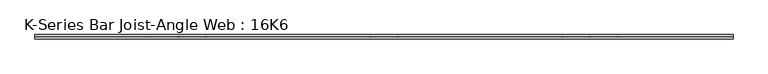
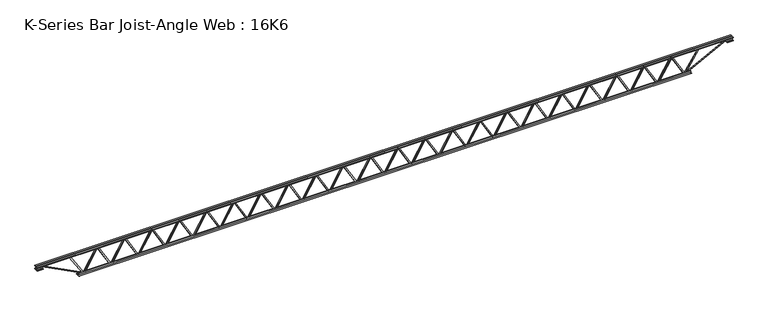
"""IFC4 building model written with IfcOpenShell, lengths in millimetres: beam geometry, K-Series Bar Joist-Angle Web : 16K6."""

from ifc_helpers import new_model, si_unit, frame, origin, place, context, project, spatial, polyline, outline, extrude, faceted_brep, source, transform, mapped, element, save


def k_series_bar_joist_angle_web_16k6_8cc64599(model_context):
    return source(origin(), model_context, "Body", "SolidModel", [
        extrude(outline(polyline([(-4.75, 4.7625), (-4.75, 0.0), (-17.45, 0.0), (-17.45, 4.7625), (-4.75, 4.7625)])), frame((4671.405296, 0.0, -164.9), z_axis=(-0.5046196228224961, 0.0, 0.8633417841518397), x_axis=(0.0, -1.0, 0.0)), (0.0, 0.0, 1.0), 382.0039827),
        extrude(outline(polyline([(-199.825, 4703.6341991), (-180.775, 4703.6341991), (-180.775, 4702.7495874), (199.825, 4480.2904965), (199.825, 4462.1251082), (180.775, 4462.1251082), (180.775, 4469.3597199), (-199.825, 4691.8188108), (-199.825, 4703.6341991)])), frame((0.0, 0.0, 0.0), z_axis=(0.0, 1.0, 0.0), x_axis=(0.0, 0.0, 1.0)), (0.0, 0.0, 1.0), 4.75),
        faceted_brep([(4233.3160173, 0.0, -180.775), (4233.3160173, 0.0, -199.825), (4233.3160173, -4.75, -199.825), (4233.3160173, -4.75, -180.775), (4234.200629, 0.0, -180.775), (4456.6597199, 0.0, 199.825), (4474.8251082, 0.0, 199.825), (4474.8251082, 0.0, 180.775), (4467.5904965, 0.0, 180.775), (4245.1314056, 0.0, -199.825), (4245.1314056, -4.75, -199.825), (4265.5449205, -4.75, -164.9), (4261.4332552, -4.75, -162.496749), (4454.1999609, -4.75, 167.303251), (4458.3116261, -4.75, 164.9), (4467.5904965, -4.75, 180.775), (4474.8251082, -4.75, 180.775), (4474.8251082, -4.75, 199.825), (4456.6597199, -4.75, 199.825), (4234.200629, -4.75, -180.775), (4458.3116261, -17.4625, 164.9), (4265.5449205, -17.4625, -164.9), (4261.4332552, -17.4625, -162.496749), (4454.1999609, -17.4625, 167.303251)], [[[0, 1, 2, 3]], [[1, 0, 4, 5, 6, 7, 8, 9]], [[2, 1, 9, 10]], [[3, 2, 10, 11, 12, 13, 14, 15, 16, 17, 18, 19]], [[0, 3, 19, 4]], [[9, 8, 15, 14, 20, 21, 11, 10]], [[5, 4, 19, 18]], [[7, 6, 17, 16]], [[8, 7, 16, 15]], [[6, 5, 18, 17]], [[21, 22, 12, 11]], [[20, 14, 13, 23]], [[22, 21, 20, 23]], [[12, 22, 23, 13]]]),
        extrude(outline(polyline([(-4.75, 4.7625001), (-4.75, 0.0), (-17.45, 0.0), (-17.45, 4.7625001), (-4.75, 4.7625001)])), frame((4201.0394951, 0.0, -164.9), z_axis=(-0.5046196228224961, 0.0, 0.8633417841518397), x_axis=(0.0, -1.0, 0.0)), (0.0, 0.0, 1.0), 382.0039827),
        extrude(outline(polyline([(-199.825, 4233.2683983), (-180.775, 4233.2683983), (-180.775, 4232.3837866), (199.825, 4009.9246957), (199.825, 3991.7593074), (180.775, 3991.7593074), (180.775, 3998.9939191), (-199.825, 4221.45301), (-199.825, 4233.2683983)])), frame((0.0, 0.0, 0.0), z_axis=(0.0, 1.0, 0.0), x_axis=(0.0, 0.0, 1.0)), (0.0, 0.0, 1.0), 4.75),
        faceted_brep([(3762.9502165, 0.0, -180.775), (3762.9502165, 0.0, -199.825), (3762.9502165, -4.75, -199.825), (3762.9502165, -4.75, -180.775), (3763.8348281, 0.0, -180.775), (3986.2939191, 0.0, 199.825), (4004.4593074, 0.0, 199.825), (4004.4593074, 0.0, 180.775), (3997.2246957, 0.0, 180.775), (3774.7656048, 0.0, -199.825), (3774.7656048, -4.75, -199.825), (3795.1791196, -4.75, -164.9), (3791.0674544, -4.75, -162.496749), (3983.83416, -4.75, 167.303251), (3987.9458253, -4.75, 164.9), (3997.2246957, -4.75, 180.775), (4004.4593074, -4.75, 180.775), (4004.4593074, -4.75, 199.825), (3986.2939191, -4.75, 199.825), (3763.8348281, -4.75, -180.775), (3987.9458253, -17.4625, 164.9), (3795.1791196, -17.4625, -164.9), (3791.0674544, -17.4625, -162.496749), (3983.83416, -17.4625, 167.303251)], [[[0, 1, 2, 3]], [[1, 0, 4, 5, 6, 7, 8, 9]], [[2, 1, 9, 10]], [[3, 2, 10, 11, 12, 13, 14, 15, 16, 17, 18, 19]], [[0, 3, 19, 4]], [[9, 8, 15, 14, 20, 21, 11, 10]], [[5, 4, 19, 18]], [[7, 6, 17, 16]], [[8, 7, 16, 15]], [[6, 5, 18, 17]], [[21, 22, 12, 11]], [[20, 14, 13, 23]], [[22, 21, 20, 23]], [[12, 22, 23, 13]]]),
        extrude(outline(polyline([(-4.75, 4.7625001), (-4.75, 0.0), (-17.45, 0.0), (-17.45, 4.7625001), (-4.75, 4.7625001)])), frame((3730.6736942, 0.0, -164.9), z_axis=(-0.5046196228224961, 0.0, 0.8633417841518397), x_axis=(0.0, -1.0, 0.0)), (0.0, 0.0, 1.0), 382.0039827),
        extrude(outline(polyline([(-199.825, 3762.9025974), (-180.775, 3762.9025974), (-180.775, 3762.0179857), (199.825, 3539.5588948), (199.825, 3521.3935065), (180.775, 3521.3935065), (180.775, 3528.6281182), (-199.825, 3751.0872091), (-199.825, 3762.9025974)])), frame((0.0, 0.0, 0.0), z_axis=(0.0, 1.0, 0.0), x_axis=(0.0, 0.0, 1.0)), (0.0, 0.0, 1.0), 4.75),
        faceted_brep([(3292.5844156, 0.0, -180.775), (3292.5844156, 0.0, -199.825), (3292.5844156, -4.75, -199.825), (3292.5844156, -4.75, -180.775), (3293.4690273, 0.0, -180.775), (3515.9281182, 0.0, 199.825), (3534.0935065, 0.0, 199.825), (3534.0935065, 0.0, 180.775), (3526.8588948, 0.0, 180.775), (3304.3998039, 0.0, -199.825), (3304.3998039, -4.75, -199.825), (3324.8133187, -4.75, -164.9), (3320.7016535, -4.75, -162.496749), (3513.4683592, -4.75, 167.303251), (3517.5800244, -4.75, 164.9), (3526.8588948, -4.75, 180.775), (3534.0935065, -4.75, 180.775), (3534.0935065, -4.75, 199.825), (3515.9281182, -4.75, 199.825), (3293.4690273, -4.75, -180.775), (3517.5800244, -17.4625, 164.9), (3324.8133187, -17.4625, -164.9), (3320.7016535, -17.4625, -162.496749), (3513.4683592, -17.4625, 167.303251)], [[[0, 1, 2, 3]], [[1, 0, 4, 5, 6, 7, 8, 9]], [[2, 1, 9, 10]], [[3, 2, 10, 11, 12, 13, 14, 15, 16, 17, 18, 19]], [[0, 3, 19, 4]], [[9, 8, 15, 14, 20, 21, 11, 10]], [[5, 4, 19, 18]], [[7, 6, 17, 16]], [[8, 7, 16, 15]], [[6, 5, 18, 17]], [[21, 22, 12, 11]], [[20, 14, 13, 23]], [[22, 21, 20, 23]], [[12, 22, 23, 13]]]),
        extrude(outline(polyline([(-4.75, 4.7625), (-4.75, 0.0), (-17.45, 0.0), (-17.45, 4.7625), (-4.75, 4.7625)])), frame((3260.3078934, 0.0, -164.9), z_axis=(-0.5046196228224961, 0.0, 0.8633417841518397), x_axis=(0.0, -1.0, 0.0)), (0.0, 0.0, 1.0), 382.0039827),
        extrude(outline(polyline([(-199.825, 3292.5367965), (-180.775, 3292.5367965), (-180.775, 3291.6521848), (199.825, 3069.1930939), (199.825, 3051.0277056), (180.775, 3051.0277056), (180.775, 3058.2623173), (-199.825, 3280.7214082), (-199.825, 3292.5367965)])), frame((0.0, 0.0, 0.0), z_axis=(0.0, 1.0, 0.0), x_axis=(0.0, 0.0, 1.0)), (0.0, 0.0, 1.0), 4.75),
        faceted_brep([(2822.2186147, 0.0, -180.775), (2822.2186147, 0.0, -199.825), (2822.2186147, -4.75, -199.825), (2822.2186147, -4.75, -180.775), (2823.1032264, 0.0, -180.775), (3045.5623173, 0.0, 199.825), (3063.7277056, 0.0, 199.825), (3063.7277056, 0.0, 180.775), (3056.4930939, 0.0, 180.775), (2834.034003, 0.0, -199.825), (2834.034003, -4.75, -199.825), (2854.4475179, -4.75, -164.9), (2850.3358526, -4.75, -162.496749), (3043.1025583, -4.75, 167.303251), (3047.2142236, -4.75, 164.9), (3056.4930939, -4.75, 180.775), (3063.7277056, -4.75, 180.775), (3063.7277056, -4.75, 199.825), (3045.5623173, -4.75, 199.825), (2823.1032264, -4.75, -180.775), (3047.2142236, -17.4625, 164.9), (2854.4475179, -17.4625, -164.9), (2850.3358526, -17.4625, -162.496749), (3043.1025583, -17.4625, 167.303251)], [[[0, 1, 2, 3]], [[1, 0, 4, 5, 6, 7, 8, 9]], [[2, 1, 9, 10]], [[3, 2, 10, 11, 12, 13, 14, 15, 16, 17, 18, 19]], [[0, 3, 19, 4]], [[9, 8, 15, 14, 20, 21, 11, 10]], [[5, 4, 19, 18]], [[7, 6, 17, 16]], [[8, 7, 16, 15]], [[6, 5, 18, 17]], [[21, 22, 12, 11]], [[20, 14, 13, 23]], [[22, 21, 20, 23]], [[12, 22, 23, 13]]]),
        extrude(outline(polyline([(-4.75, 4.7625001), (-4.75, 0.0), (-17.45, 0.0), (-17.45, 4.7625001), (-4.75, 4.7625001)])), frame((2789.9420925, 0.0, -164.9), z_axis=(-0.5046196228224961, 0.0, 0.8633417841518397), x_axis=(0.0, -1.0, 0.0)), (0.0, 0.0, 1.0), 382.0039827),
        extrude(outline(polyline([(-199.825, 2822.1709957), (-180.775, 2822.1709957), (-180.775, 2821.286384), (199.825, 2598.8272931), (199.825, 2580.6619048), (180.775, 2580.6619048), (180.775, 2587.8965165), (-199.825, 2810.3556074), (-199.825, 2822.1709957)])), frame((0.0, 0.0, 0.0), z_axis=(0.0, 1.0, 0.0), x_axis=(0.0, 0.0, 1.0)), (0.0, 0.0, 1.0), 4.75),
        faceted_brep([(2351.8528139, 0.0, -180.775), (2351.8528139, 0.0, -199.825), (2351.8528139, -4.75, -199.825), (2351.8528139, -4.75, -180.775), (2352.7374255, 0.0, -180.775), (2575.1965165, 0.0, 199.825), (2593.3619048, 0.0, 199.825), (2593.3619048, 0.0, 180.775), (2586.1272931, 0.0, 180.775), (2363.6682022, 0.0, -199.825), (2363.6682022, -4.75, -199.825), (2384.081717, -4.75, -164.9), (2379.9700518, -4.75, -162.496749), (2572.7367574, -4.75, 167.303251), (2576.8484227, -4.75, 164.9), (2586.1272931, -4.75, 180.775), (2593.3619048, -4.75, 180.775), (2593.3619048, -4.75, 199.825), (2575.1965165, -4.75, 199.825), (2352.7374255, -4.75, -180.775), (2576.8484227, -17.4625, 164.9), (2384.081717, -17.4625, -164.9), (2379.9700518, -17.4625, -162.496749), (2572.7367574, -17.4625, 167.303251)], [[[0, 1, 2, 3]], [[1, 0, 4, 5, 6, 7, 8, 9]], [[2, 1, 9, 10]], [[3, 2, 10, 11, 12, 13, 14, 15, 16, 17, 18, 19]], [[0, 3, 19, 4]], [[9, 8, 15, 14, 20, 21, 11, 10]], [[5, 4, 19, 18]], [[7, 6, 17, 16]], [[8, 7, 16, 15]], [[6, 5, 18, 17]], [[21, 22, 12, 11]], [[20, 14, 13, 23]], [[22, 21, 20, 23]], [[12, 22, 23, 13]]]),
        extrude(outline(polyline([(-4.75, 4.7625), (-4.75, 0.0), (-17.45, 0.0), (-17.45, 4.7625), (-4.75, 4.7625)])), frame((2319.5762917, 0.0, -164.9), z_axis=(-0.5046196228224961, 0.0, 0.8633417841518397), x_axis=(0.0, -1.0, 0.0)), (0.0, 0.0, 1.0), 382.0039827),
        extrude(outline(polyline([(-199.825, 2351.8051948), (-180.775, 2351.8051948), (-180.775, 2350.9205831), (199.825, 2128.4614922), (199.825, 2110.2961039), (180.775, 2110.2961039), (180.775, 2117.5307156), (-199.825, 2339.9898065), (-199.825, 2351.8051948)])), frame((0.0, 0.0, 0.0), z_axis=(0.0, 1.0, 0.0), x_axis=(0.0, 0.0, 1.0)), (0.0, 0.0, 1.0), 4.75),
        faceted_brep([(1881.487013, 0.0, -180.775), (1881.487013, 0.0, -199.825), (1881.487013, -4.75, -199.825), (1881.487013, -4.75, -180.775), (1882.3716247, 0.0, -180.775), (2104.8307156, 0.0, 199.825), (2122.9961039, 0.0, 199.825), (2122.9961039, 0.0, 180.775), (2115.7614922, 0.0, 180.775), (1893.3024013, 0.0, -199.825), (1893.3024013, -4.75, -199.825), (1913.7159161, -4.75, -164.9), (1909.6042509, -4.75, -162.496749), (2102.3709566, -4.75, 167.303251), (2106.4826218, -4.75, 164.9), (2115.7614922, -4.75, 180.775), (2122.9961039, -4.75, 180.775), (2122.9961039, -4.75, 199.825), (2104.8307156, -4.75, 199.825), (1882.3716247, -4.75, -180.775), (2106.4826218, -17.4625, 164.9), (1913.7159161, -17.4625, -164.9), (1909.6042509, -17.4625, -162.496749), (2102.3709566, -17.4625, 167.303251)], [[[0, 1, 2, 3]], [[1, 0, 4, 5, 6, 7, 8, 9]], [[2, 1, 9, 10]], [[3, 2, 10, 11, 12, 13, 14, 15, 16, 17, 18, 19]], [[0, 3, 19, 4]], [[9, 8, 15, 14, 20, 21, 11, 10]], [[5, 4, 19, 18]], [[7, 6, 17, 16]], [[8, 7, 16, 15]], [[6, 5, 18, 17]], [[21, 22, 12, 11]], [[20, 14, 13, 23]], [[22, 21, 20, 23]], [[12, 22, 23, 13]]]),
        extrude(outline(polyline([(-4.75, 4.7625), (-4.75, 0.0), (-17.45, 0.0), (-17.45, 4.7625), (-4.75, 4.7625)])), frame((1849.2104908, 0.0, -164.9), z_axis=(-0.5046196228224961, 0.0, 0.8633417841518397), x_axis=(0.0, -1.0, 0.0)), (0.0, 0.0, 1.0), 382.0039827),
        extrude(outline(polyline([(-199.825, 1881.4393939), (-180.775, 1881.4393939), (-180.775, 1880.5547822), (199.825, 1658.0956913), (199.825, 1639.930303), (180.775, 1639.930303), (180.775, 1647.1649147), (-199.825, 1869.6240056), (-199.825, 1881.4393939)])), frame((0.0, 0.0, 0.0), z_axis=(0.0, 1.0, 0.0), x_axis=(0.0, 0.0, 1.0)), (0.0, 0.0, 1.0), 4.75),
        faceted_brep([(1411.1212121, 0.0, -180.775), (1411.1212121, 0.0, -199.825), (1411.1212121, -4.75, -199.825), (1411.1212121, -4.75, -180.775), (1412.0058238, 0.0, -180.775), (1634.4649147, 0.0, 199.825), (1652.630303, 0.0, 199.825), (1652.630303, 0.0, 180.775), (1645.3956913, 0.0, 180.775), (1422.9366004, 0.0, -199.825), (1422.9366004, -4.75, -199.825), (1443.3501153, -4.75, -164.9), (1439.23845, -4.75, -162.496749), (1632.0051557, -4.75, 167.303251), (1636.116821, -4.75, 164.9), (1645.3956913, -4.75, 180.775), (1652.630303, -4.75, 180.775), (1652.630303, -4.75, 199.825), (1634.4649147, -4.75, 199.825), (1412.0058238, -4.75, -180.775), (1636.116821, -17.4625, 164.9), (1443.3501153, -17.4625, -164.9), (1439.23845, -17.4625, -162.496749), (1632.0051557, -17.4625, 167.303251)], [[[0, 1, 2, 3]], [[1, 0, 4, 5, 6, 7, 8, 9]], [[2, 1, 9, 10]], [[3, 2, 10, 11, 12, 13, 14, 15, 16, 17, 18, 19]], [[0, 3, 19, 4]], [[9, 8, 15, 14, 20, 21, 11, 10]], [[5, 4, 19, 18]], [[7, 6, 17, 16]], [[8, 7, 16, 15]], [[6, 5, 18, 17]], [[21, 22, 12, 11]], [[20, 14, 13, 23]], [[22, 21, 20, 23]], [[12, 22, 23, 13]]]),
        extrude(outline(polyline([(-4.75, 4.7625001), (-4.75, 0.0), (-17.45, 0.0), (-17.45, 4.7625001), (-4.75, 4.7625001)])), frame((1378.8446899, 0.0, -164.9), z_axis=(-0.5046196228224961, 0.0, 0.8633417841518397), x_axis=(0.0, -1.0, 0.0)), (0.0, 0.0, 1.0), 382.0039827),
        extrude(outline(polyline([(-199.825, 1411.0735931), (-180.775, 1411.0735931), (-180.775, 1410.1889814), (199.825, 1187.7298905), (199.825, 1169.5645022), (180.775, 1169.5645022), (180.775, 1176.7991139), (-199.825, 1399.2582048), (-199.825, 1411.0735931)])), frame((0.0, 0.0, 0.0), z_axis=(0.0, 1.0, 0.0), x_axis=(0.0, 0.0, 1.0)), (0.0, 0.0, 1.0), 4.75),
        faceted_brep([(940.7554113, 0.0, -180.775), (940.7554113, 0.0, -199.825), (940.7554113, -4.75, -199.825), (940.7554113, -4.75, -180.775), (941.6400229, 0.0, -180.775), (1164.0991139, 0.0, 199.825), (1182.2645022, 0.0, 199.825), (1182.2645022, 0.0, 180.775), (1175.0298905, 0.0, 180.775), (952.5707996, 0.0, -199.825), (952.5707996, -4.75, -199.825), (972.9843144, -4.75, -164.9), (968.8726492, -4.75, -162.496749), (1161.6393548, -4.75, 167.303251), (1165.7510201, -4.75, 164.9), (1175.0298905, -4.75, 180.775), (1182.2645022, -4.75, 180.775), (1182.2645022, -4.75, 199.825), (1164.0991139, -4.75, 199.825), (941.6400229, -4.75, -180.775), (1165.7510201, -17.4625, 164.9), (972.9843144, -17.4625, -164.9), (968.8726492, -17.4625, -162.496749), (1161.6393548, -17.4625, 167.303251)], [[[0, 1, 2, 3]], [[1, 0, 4, 5, 6, 7, 8, 9]], [[2, 1, 9, 10]], [[3, 2, 10, 11, 12, 13, 14, 15, 16, 17, 18, 19]], [[0, 3, 19, 4]], [[9, 8, 15, 14, 20, 21, 11, 10]], [[5, 4, 19, 18]], [[7, 6, 17, 16]], [[8, 7, 16, 15]], [[6, 5, 18, 17]], [[21, 22, 12, 11]], [[20, 14, 13, 23]], [[22, 21, 20, 23]], [[12, 22, 23, 13]]]),
        extrude(outline(polyline([(-4.75, 4.7625), (-4.75, 0.0), (-17.45, 0.0), (-17.45, 4.7625), (-4.75, 4.7625)])), frame((908.4788891, 0.0, -164.9), z_axis=(-0.5046196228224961, 0.0, 0.8633417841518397), x_axis=(0.0, -1.0, 0.0)), (0.0, 0.0, 1.0), 382.0039827),
        extrude(outline(polyline([(-199.825, 940.7077922), (-180.775, 940.7077922), (-180.775, 939.8231805), (199.825, 717.3640896), (199.825, 699.1987013), (180.775, 699.1987013), (180.775, 706.433313), (-199.825, 928.8924039), (-199.825, 940.7077922)])), frame((0.0, 0.0, 0.0), z_axis=(0.0, 1.0, 0.0), x_axis=(0.0, 0.0, 1.0)), (0.0, 0.0, 1.0), 4.75),
        faceted_brep([(470.3896104, 0.0, -180.775), (470.3896104, 0.0, -199.825), (470.3896104, -4.75, -199.825), (470.3896104, -4.75, -180.775), (471.2742221, 0.0, -180.775), (693.733313, 0.0, 199.825), (711.8987013, 0.0, 199.825), (711.8987013, 0.0, 180.775), (704.6640896, 0.0, 180.775), (482.2049987, 0.0, -199.825), (482.2049987, -4.75, -199.825), (502.6185135, -4.75, -164.9), (498.5068483, -4.75, -162.496749), (691.273554, -4.75, 167.303251), (695.3852192, -4.75, 164.9), (704.6640896, -4.75, 180.775), (711.8987013, -4.75, 180.775), (711.8987013, -4.75, 199.825), (693.733313, -4.75, 199.825), (471.2742221, -4.75, -180.775), (695.3852192, -17.4625, 164.9), (502.6185135, -17.4625, -164.9), (498.5068483, -17.4625, -162.496749), (691.273554, -17.4625, 167.303251)], [[[0, 1, 2, 3]], [[1, 0, 4, 5, 6, 7, 8, 9]], [[2, 1, 9, 10]], [[3, 2, 10, 11, 12, 13, 14, 15, 16, 17, 18, 19]], [[0, 3, 19, 4]], [[9, 8, 15, 14, 20, 21, 11, 10]], [[5, 4, 19, 18]], [[7, 6, 17, 16]], [[8, 7, 16, 15]], [[6, 5, 18, 17]], [[21, 22, 12, 11]], [[20, 14, 13, 23]], [[22, 21, 20, 23]], [[12, 22, 23, 13]]]),
        extrude(outline(polyline([(-4.75, 4.7625), (-4.75, 0.0), (-17.45, 0.0), (-17.45, 4.7625), (-4.75, 4.7625)])), frame((438.1130882, 0.0, -164.9), z_axis=(-0.5046196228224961, 0.0, 0.8633417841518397), x_axis=(0.0, -1.0, 0.0)), (0.0, 0.0, 1.0), 382.0039827),
        extrude(outline(polyline([(-199.825, 470.3419913), (-180.775, 470.3419913), (-180.775, 469.4573796), (199.825, 246.9982887), (199.825, 228.8329004), (180.775, 228.8329004), (180.775, 236.0675121), (-199.825, 458.526603), (-199.825, 470.3419913)])), frame((0.0, 0.0, 0.0), z_axis=(0.0, 1.0, 0.0), x_axis=(0.0, 0.0, 1.0)), (0.0, 0.0, 1.0), 4.75),
        faceted_brep([(0.0238095, 0.0, -180.775), (0.0238095, 0.0, -199.825), (0.0238095, -4.75, -199.825), (0.0238095, -4.75, -180.775), (0.9084212, 0.0, -180.775), (223.3675121, 0.0, 199.825), (241.5329004, 0.0, 199.825), (241.5329004, 0.0, 180.775), (234.2982887, 0.0, 180.775), (11.8391978, 0.0, -199.825), (11.8391978, -4.75, -199.825), (32.2527127, -4.75, -164.9), (28.1410474, -4.75, -162.496749), (220.9077531, -4.75, 167.303251), (225.0194184, -4.75, 164.9), (234.2982887, -4.75, 180.775), (241.5329004, -4.75, 180.775), (241.5329004, -4.75, 199.825), (223.3675121, -4.75, 199.825), (0.9084212, -4.75, -180.775), (225.0194184, -17.4625, 164.9), (32.2527127, -17.4625, -164.9), (28.1410474, -17.4625, -162.496749), (220.9077531, -17.4625, 167.303251)], [[[0, 1, 2, 3]], [[1, 0, 4, 5, 6, 7, 8, 9]], [[2, 1, 9, 10]], [[3, 2, 10, 11, 12, 13, 14, 15, 16, 17, 18, 19]], [[0, 3, 19, 4]], [[9, 8, 15, 14, 20, 21, 11, 10]], [[5, 4, 19, 18]], [[7, 6, 17, 16]], [[8, 7, 16, 15]], [[6, 5, 18, 17]], [[21, 22, 12, 11]], [[20, 14, 13, 23]], [[22, 21, 20, 23]], [[12, 22, 23, 13]]]),
        extrude(outline(polyline([(-4.75, 4.7625001), (-4.75, 0.0), (-17.45, 0.0), (-17.45, 4.7625001), (-4.75, 4.7625001)])), frame((-32.2527127, 0.0, -164.9), z_axis=(-0.5046196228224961, 0.0, 0.8633417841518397), x_axis=(0.0, -1.0, 0.0)), (0.0, 0.0, 1.0), 382.0039827),
        extrude(outline(polyline([(-199.825, -0.0238095), (-180.775, -0.0238095), (-180.775, -0.9084212), (199.825, -223.3675121), (199.825, -241.5329004), (180.775, -241.5329004), (180.775, -234.2982887), (-199.825, -11.8391978), (-199.825, -0.0238095)])), frame((0.0, 0.0, 0.0), z_axis=(0.0, 1.0, 0.0), x_axis=(0.0, 0.0, 1.0)), (0.0, 0.0, 1.0), 4.75),
        faceted_brep([(-470.3419913, 0.0, -180.775), (-470.3419913, 0.0, -199.825), (-470.3419913, -4.75, -199.825), (-470.3419913, -4.75, -180.775), (-469.4573796, 0.0, -180.775), (-246.9982887, 0.0, 199.825), (-228.8329004, 0.0, 199.825), (-228.8329004, 0.0, 180.775), (-236.0675121, 0.0, 180.775), (-458.526603, 0.0, -199.825), (-458.526603, -4.75, -199.825), (-438.1130882, -4.75, -164.9), (-442.2247534, -4.75, -162.496749), (-249.4580478, -4.75, 167.303251), (-245.3463825, -4.75, 164.9), (-236.0675121, -4.75, 180.775), (-228.8329004, -4.75, 180.775), (-228.8329004, -4.75, 199.825), (-246.9982887, -4.75, 199.825), (-469.4573796, -4.75, -180.775), (-245.3463825, -17.4625, 164.9), (-438.1130882, -17.4625, -164.9), (-442.2247534, -17.4625, -162.496749), (-249.4580478, -17.4625, 167.303251)], [[[0, 1, 2, 3]], [[1, 0, 4, 5, 6, 7, 8, 9]], [[2, 1, 9, 10]], [[3, 2, 10, 11, 12, 13, 14, 15, 16, 17, 18, 19]], [[0, 3, 19, 4]], [[9, 8, 15, 14, 20, 21, 11, 10]], [[5, 4, 19, 18]], [[7, 6, 17, 16]], [[8, 7, 16, 15]], [[6, 5, 18, 17]], [[21, 22, 12, 11]], [[20, 14, 13, 23]], [[22, 21, 20, 23]], [[12, 22, 23, 13]]]),
        extrude(outline(polyline([(-4.75, 4.7625), (-4.75, 0.0), (-17.45, 0.0), (-17.45, 4.7625), (-4.75, 4.7625)])), frame((-502.6185135, 0.0, -164.9), z_axis=(-0.5046196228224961, 0.0, 0.8633417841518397), x_axis=(0.0, -1.0, 0.0)), (0.0, 0.0, 1.0), 382.0039827),
        extrude(outline(polyline([(-199.825, -470.3896104), (-180.775, -470.3896104), (-180.775, -471.2742221), (199.825, -693.733313), (199.825, -711.8987013), (180.775, -711.8987013), (180.775, -704.6640896), (-199.825, -482.2049987), (-199.825, -470.3896104)])), frame((0.0, 0.0, 0.0), z_axis=(0.0, 1.0, 0.0), x_axis=(0.0, 0.0, 1.0)), (0.0, 0.0, 1.0), 4.75),
        faceted_brep([(-940.7077922, 0.0, -180.775), (-940.7077922, 0.0, -199.825), (-940.7077922, -4.75, -199.825), (-940.7077922, -4.75, -180.775), (-939.8231805, 0.0, -180.775), (-717.3640896, 0.0, 199.825), (-699.1987013, 0.0, 199.825), (-699.1987013, 0.0, 180.775), (-706.433313, 0.0, 180.775), (-928.8924039, 0.0, -199.825), (-928.8924039, -4.75, -199.825), (-908.4788891, -4.75, -164.9), (-912.5905543, -4.75, -162.496749), (-719.8238486, -4.75, 167.303251), (-715.7121834, -4.75, 164.9), (-706.433313, -4.75, 180.775), (-699.1987013, -4.75, 180.775), (-699.1987013, -4.75, 199.825), (-717.3640896, -4.75, 199.825), (-939.8231805, -4.75, -180.775), (-715.7121834, -17.4625, 164.9), (-908.4788891, -17.4625, -164.9), (-912.5905543, -17.4625, -162.496749), (-719.8238486, -17.4625, 167.303251)], [[[0, 1, 2, 3]], [[1, 0, 4, 5, 6, 7, 8, 9]], [[2, 1, 9, 10]], [[3, 2, 10, 11, 12, 13, 14, 15, 16, 17, 18, 19]], [[0, 3, 19, 4]], [[9, 8, 15, 14, 20, 21, 11, 10]], [[5, 4, 19, 18]], [[7, 6, 17, 16]], [[8, 7, 16, 15]], [[6, 5, 18, 17]], [[21, 22, 12, 11]], [[20, 14, 13, 23]], [[22, 21, 20, 23]], [[12, 22, 23, 13]]]),
        extrude(outline(polyline([(-4.75, 4.7625), (-4.75, 0.0), (-17.45, 0.0), (-17.45, 4.7625), (-4.75, 4.7625)])), frame((-972.9843144, 0.0, -164.9), z_axis=(-0.5046196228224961, 0.0, 0.8633417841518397), x_axis=(0.0, -1.0, 0.0)), (0.0, 0.0, 1.0), 382.0039827),
        extrude(outline(polyline([(-199.825, -940.7554113), (-180.775, -940.7554113), (-180.775, -941.6400229), (199.825, -1164.0991139), (199.825, -1182.2645022), (180.775, -1182.2645022), (180.775, -1175.0298905), (-199.825, -952.5707996), (-199.825, -940.7554113)])), frame((0.0, 0.0, 0.0), z_axis=(0.0, 1.0, 0.0), x_axis=(0.0, 0.0, 1.0)), (0.0, 0.0, 1.0), 4.75),
        faceted_brep([(-1411.0735931, 0.0, -180.775), (-1411.0735931, 0.0, -199.825), (-1411.0735931, -4.75, -199.825), (-1411.0735931, -4.75, -180.775), (-1410.1889814, 0.0, -180.775), (-1187.7298905, 0.0, 199.825), (-1169.5645022, 0.0, 199.825), (-1169.5645022, 0.0, 180.775), (-1176.7991139, 0.0, 180.775), (-1399.2582048, 0.0, -199.825), (-1399.2582048, -4.75, -199.825), (-1378.8446899, -4.75, -164.9), (-1382.9563552, -4.75, -162.496749), (-1190.1896495, -4.75, 167.303251), (-1186.0779842, -4.75, 164.9), (-1176.7991139, -4.75, 180.775), (-1169.5645022, -4.75, 180.775), (-1169.5645022, -4.75, 199.825), (-1187.7298905, -4.75, 199.825), (-1410.1889814, -4.75, -180.775), (-1186.0779842, -17.4625, 164.9), (-1378.8446899, -17.4625, -164.9), (-1382.9563552, -17.4625, -162.496749), (-1190.1896495, -17.4625, 167.303251)], [[[0, 1, 2, 3]], [[1, 0, 4, 5, 6, 7, 8, 9]], [[2, 1, 9, 10]], [[3, 2, 10, 11, 12, 13, 14, 15, 16, 17, 18, 19]], [[0, 3, 19, 4]], [[9, 8, 15, 14, 20, 21, 11, 10]], [[5, 4, 19, 18]], [[7, 6, 17, 16]], [[8, 7, 16, 15]], [[6, 5, 18, 17]], [[21, 22, 12, 11]], [[20, 14, 13, 23]], [[22, 21, 20, 23]], [[12, 22, 23, 13]]]),
        extrude(outline(polyline([(-4.75, 4.7625001), (-4.75, 0.0), (-17.45, 0.0), (-17.45, 4.7625001), (-4.75, 4.7625001)])), frame((-1443.3501153, 0.0, -164.9), z_axis=(-0.5046196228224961, 0.0, 0.8633417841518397), x_axis=(0.0, -1.0, 0.0)), (0.0, 0.0, 1.0), 382.0039827),
        extrude(outline(polyline([(-199.825, -1411.1212121), (-180.775, -1411.1212121), (-180.775, -1412.0058238), (199.825, -1634.4649147), (199.825, -1652.630303), (180.775, -1652.630303), (180.775, -1645.3956913), (-199.825, -1422.9366004), (-199.825, -1411.1212121)])), frame((0.0, 0.0, 0.0), z_axis=(0.0, 1.0, 0.0), x_axis=(0.0, 0.0, 1.0)), (0.0, 0.0, 1.0), 4.75),
        faceted_brep([(-1881.4393939, 0.0, -180.775), (-1881.4393939, 0.0, -199.825), (-1881.4393939, -4.75, -199.825), (-1881.4393939, -4.75, -180.775), (-1880.5547822, 0.0, -180.775), (-1658.0956913, 0.0, 199.825), (-1639.930303, 0.0, 199.825), (-1639.930303, 0.0, 180.775), (-1647.1649147, 0.0, 180.775), (-1869.6240056, 0.0, -199.825), (-1869.6240056, -4.75, -199.825), (-1849.2104908, -4.75, -164.9), (-1853.322156, -4.75, -162.496749), (-1660.5554504, -4.75, 167.303251), (-1656.4437851, -4.75, 164.9), (-1647.1649147, -4.75, 180.775), (-1639.930303, -4.75, 180.775), (-1639.930303, -4.75, 199.825), (-1658.0956913, -4.75, 199.825), (-1880.5547822, -4.75, -180.775), (-1656.4437851, -17.4625, 164.9), (-1849.2104908, -17.4625, -164.9), (-1853.322156, -17.4625, -162.496749), (-1660.5554504, -17.4625, 167.303251)], [[[0, 1, 2, 3]], [[1, 0, 4, 5, 6, 7, 8, 9]], [[2, 1, 9, 10]], [[3, 2, 10, 11, 12, 13, 14, 15, 16, 17, 18, 19]], [[0, 3, 19, 4]], [[9, 8, 15, 14, 20, 21, 11, 10]], [[5, 4, 19, 18]], [[7, 6, 17, 16]], [[8, 7, 16, 15]], [[6, 5, 18, 17]], [[21, 22, 12, 11]], [[20, 14, 13, 23]], [[22, 21, 20, 23]], [[12, 22, 23, 13]]]),
        extrude(outline(polyline([(-4.75, 4.7625), (-4.75, 0.0), (-17.45, 0.0), (-17.45, 4.7625), (-4.75, 4.7625)])), frame((-1913.7159161, 0.0, -164.9), z_axis=(-0.5046196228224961, 0.0, 0.8633417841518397), x_axis=(0.0, -1.0, 0.0)), (0.0, 0.0, 1.0), 382.0039827),
        extrude(outline(polyline([(-199.825, -1881.487013), (-180.775, -1881.487013), (-180.775, -1882.3716247), (199.825, -2104.8307156), (199.825, -2122.9961039), (180.775, -2122.9961039), (180.775, -2115.7614922), (-199.825, -1893.3024013), (-199.825, -1881.487013)])), frame((0.0, 0.0, 0.0), z_axis=(0.0, 1.0, 0.0), x_axis=(0.0, 0.0, 1.0)), (0.0, 0.0, 1.0), 4.75),
        faceted_brep([(-2351.8051948, 0.0, -180.775), (-2351.8051948, 0.0, -199.825), (-2351.8051948, -4.75, -199.825), (-2351.8051948, -4.75, -180.775), (-2350.9205831, 0.0, -180.775), (-2128.4614922, 0.0, 199.825), (-2110.2961039, 0.0, 199.825), (-2110.2961039, 0.0, 180.775), (-2117.5307156, 0.0, 180.775), (-2339.9898065, 0.0, -199.825), (-2339.9898065, -4.75, -199.825), (-2319.5762917, -4.75, -164.9), (-2323.6879569, -4.75, -162.496749), (-2130.9212512, -4.75, 167.303251), (-2126.809586, -4.75, 164.9), (-2117.5307156, -4.75, 180.775), (-2110.2961039, -4.75, 180.775), (-2110.2961039, -4.75, 199.825), (-2128.4614922, -4.75, 199.825), (-2350.9205831, -4.75, -180.775), (-2126.809586, -17.4625, 164.9), (-2319.5762917, -17.4625, -164.9), (-2323.6879569, -17.4625, -162.496749), (-2130.9212512, -17.4625, 167.303251)], [[[0, 1, 2, 3]], [[1, 0, 4, 5, 6, 7, 8, 9]], [[2, 1, 9, 10]], [[3, 2, 10, 11, 12, 13, 14, 15, 16, 17, 18, 19]], [[0, 3, 19, 4]], [[9, 8, 15, 14, 20, 21, 11, 10]], [[5, 4, 19, 18]], [[7, 6, 17, 16]], [[8, 7, 16, 15]], [[6, 5, 18, 17]], [[21, 22, 12, 11]], [[20, 14, 13, 23]], [[22, 21, 20, 23]], [[12, 22, 23, 13]]]),
        extrude(outline(polyline([(-4.75, 4.7625), (-4.75, 0.0), (-17.45, 0.0), (-17.45, 4.7625), (-4.75, 4.7625)])), frame((-2384.081717, 0.0, -164.9), z_axis=(-0.5046196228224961, 0.0, 0.8633417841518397), x_axis=(0.0, -1.0, 0.0)), (0.0, 0.0, 1.0), 382.0039827),
        extrude(outline(polyline([(-199.825, -2351.8528139), (-180.775, -2351.8528139), (-180.775, -2352.7374255), (199.825, -2575.1965165), (199.825, -2593.3619048), (180.775, -2593.3619048), (180.775, -2586.1272931), (-199.825, -2363.6682022), (-199.825, -2351.8528139)])), frame((0.0, 0.0, 0.0), z_axis=(0.0, 1.0, 0.0), x_axis=(0.0, 0.0, 1.0)), (0.0, 0.0, 1.0), 4.75),
        faceted_brep([(-2822.1709957, 0.0, -180.775), (-2822.1709957, 0.0, -199.825), (-2822.1709957, -4.75, -199.825), (-2822.1709957, -4.75, -180.775), (-2821.286384, 0.0, -180.775), (-2598.8272931, 0.0, 199.825), (-2580.6619048, 0.0, 199.825), (-2580.6619048, 0.0, 180.775), (-2587.8965165, 0.0, 180.775), (-2810.3556074, 0.0, -199.825), (-2810.3556074, -4.75, -199.825), (-2789.9420925, -4.75, -164.9), (-2794.0537578, -4.75, -162.496749), (-2601.2870521, -4.75, 167.303251), (-2597.1753868, -4.75, 164.9), (-2587.8965165, -4.75, 180.775), (-2580.6619048, -4.75, 180.775), (-2580.6619048, -4.75, 199.825), (-2598.8272931, -4.75, 199.825), (-2821.286384, -4.75, -180.775), (-2597.1753868, -17.4625, 164.9), (-2789.9420925, -17.4625, -164.9), (-2794.0537578, -17.4625, -162.496749), (-2601.2870521, -17.4625, 167.303251)], [[[0, 1, 2, 3]], [[1, 0, 4, 5, 6, 7, 8, 9]], [[2, 1, 9, 10]], [[3, 2, 10, 11, 12, 13, 14, 15, 16, 17, 18, 19]], [[0, 3, 19, 4]], [[9, 8, 15, 14, 20, 21, 11, 10]], [[5, 4, 19, 18]], [[7, 6, 17, 16]], [[8, 7, 16, 15]], [[6, 5, 18, 17]], [[21, 22, 12, 11]], [[20, 14, 13, 23]], [[22, 21, 20, 23]], [[12, 22, 23, 13]]]),
        extrude(outline(polyline([(-4.75, 4.7625001), (-4.75, 0.0), (-17.45, 0.0), (-17.45, 4.7625001), (-4.75, 4.7625001)])), frame((-2854.4475179, 0.0, -164.9), z_axis=(-0.5046196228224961, 0.0, 0.8633417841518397), x_axis=(0.0, -1.0, 0.0)), (0.0, 0.0, 1.0), 382.0039827),
        extrude(outline(polyline([(-199.825, -2822.2186147), (-180.775, -2822.2186147), (-180.775, -2823.1032264), (199.825, -3045.5623173), (199.825, -3063.7277056), (180.775, -3063.7277056), (180.775, -3056.4930939), (-199.825, -2834.034003), (-199.825, -2822.2186147)])), frame((0.0, 0.0, 0.0), z_axis=(0.0, 1.0, 0.0), x_axis=(0.0, 0.0, 1.0)), (0.0, 0.0, 1.0), 4.75),
        faceted_brep([(-3292.5367965, 0.0, -180.775), (-3292.5367965, 0.0, -199.825), (-3292.5367965, -4.75, -199.825), (-3292.5367965, -4.75, -180.775), (-3291.6521848, 0.0, -180.775), (-3069.1930939, 0.0, 199.825), (-3051.0277056, 0.0, 199.825), (-3051.0277056, 0.0, 180.775), (-3058.2623173, 0.0, 180.775), (-3280.7214082, 0.0, -199.825), (-3280.7214082, -4.75, -199.825), (-3260.3078934, -4.75, -164.9), (-3264.4195586, -4.75, -162.496749), (-3071.652853, -4.75, 167.303251), (-3067.5411877, -4.75, 164.9), (-3058.2623173, -4.75, 180.775), (-3051.0277056, -4.75, 180.775), (-3051.0277056, -4.75, 199.825), (-3069.1930939, -4.75, 199.825), (-3291.6521848, -4.75, -180.775), (-3067.5411877, -17.4625, 164.9), (-3260.3078934, -17.4625, -164.9), (-3264.4195586, -17.4625, -162.496749), (-3071.652853, -17.4625, 167.303251)], [[[0, 1, 2, 3]], [[1, 0, 4, 5, 6, 7, 8, 9]], [[2, 1, 9, 10]], [[3, 2, 10, 11, 12, 13, 14, 15, 16, 17, 18, 19]], [[0, 3, 19, 4]], [[9, 8, 15, 14, 20, 21, 11, 10]], [[5, 4, 19, 18]], [[7, 6, 17, 16]], [[8, 7, 16, 15]], [[6, 5, 18, 17]], [[21, 22, 12, 11]], [[20, 14, 13, 23]], [[22, 21, 20, 23]], [[12, 22, 23, 13]]]),
        extrude(outline(polyline([(-4.75, 4.7625), (-4.75, 0.0), (-17.45, 0.0), (-17.45, 4.7625), (-4.75, 4.7625)])), frame((-3324.8133187, 0.0, -164.9), z_axis=(-0.5046196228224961, 0.0, 0.8633417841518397), x_axis=(0.0, -1.0, 0.0)), (0.0, 0.0, 1.0), 382.0039827),
        extrude(outline(polyline([(-199.825, -3292.5844156), (-180.775, -3292.5844156), (-180.775, -3293.4690273), (199.825, -3515.9281182), (199.825, -3534.0935065), (180.775, -3534.0935065), (180.775, -3526.8588948), (-199.825, -3304.3998039), (-199.825, -3292.5844156)])), frame((0.0, 0.0, 0.0), z_axis=(0.0, 1.0, 0.0), x_axis=(0.0, 0.0, 1.0)), (0.0, 0.0, 1.0), 4.75),
        faceted_brep([(-3762.9025974, 0.0, -180.775), (-3762.9025974, 0.0, -199.825), (-3762.9025974, -4.75, -199.825), (-3762.9025974, -4.75, -180.775), (-3762.0179857, 0.0, -180.775), (-3539.5588948, 0.0, 199.825), (-3521.3935065, 0.0, 199.825), (-3521.3935065, 0.0, 180.775), (-3528.6281182, 0.0, 180.775), (-3751.0872091, 0.0, -199.825), (-3751.0872091, -4.75, -199.825), (-3730.6736942, -4.75, -164.9), (-3734.7853595, -4.75, -162.496749), (-3542.0186538, -4.75, 167.303251), (-3537.9069886, -4.75, 164.9), (-3528.6281182, -4.75, 180.775), (-3521.3935065, -4.75, 180.775), (-3521.3935065, -4.75, 199.825), (-3539.5588948, -4.75, 199.825), (-3762.0179857, -4.75, -180.775), (-3537.9069886, -17.4625, 164.9), (-3730.6736942, -17.4625, -164.9), (-3734.7853595, -17.4625, -162.496749), (-3542.0186538, -17.4625, 167.303251)], [[[0, 1, 2, 3]], [[1, 0, 4, 5, 6, 7, 8, 9]], [[2, 1, 9, 10]], [[3, 2, 10, 11, 12, 13, 14, 15, 16, 17, 18, 19]], [[0, 3, 19, 4]], [[9, 8, 15, 14, 20, 21, 11, 10]], [[5, 4, 19, 18]], [[7, 6, 17, 16]], [[8, 7, 16, 15]], [[6, 5, 18, 17]], [[21, 22, 12, 11]], [[20, 14, 13, 23]], [[22, 21, 20, 23]], [[12, 22, 23, 13]]]),
        extrude(outline(polyline([(-4.75, 4.7625), (-4.75, 0.0), (-17.45, 0.0), (-17.45, 4.7625), (-4.75, 4.7625)])), frame((-3795.1791196, 0.0, -164.9), z_axis=(-0.5046196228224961, 0.0, 0.8633417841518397), x_axis=(0.0, -1.0, 0.0)), (0.0, 0.0, 1.0), 382.0039827),
        extrude(outline(polyline([(-199.825, -3762.9502165), (-180.775, -3762.9502165), (-180.775, -3763.8348281), (199.825, -3986.2939191), (199.825, -4004.4593074), (180.775, -4004.4593074), (180.775, -3997.2246957), (-199.825, -3774.7656048), (-199.825, -3762.9502165)])), frame((0.0, 0.0, 0.0), z_axis=(0.0, 1.0, 0.0), x_axis=(0.0, 0.0, 1.0)), (0.0, 0.0, 1.0), 4.75),
        faceted_brep([(-4233.2683983, 0.0, -180.775), (-4233.2683983, 0.0, -199.825), (-4233.2683983, -4.75, -199.825), (-4233.2683983, -4.75, -180.775), (-4232.3837866, 0.0, -180.775), (-4009.9246957, 0.0, 199.825), (-3991.7593074, 0.0, 199.825), (-3991.7593074, 0.0, 180.775), (-3998.9939191, 0.0, 180.775), (-4221.45301, 0.0, -199.825), (-4221.45301, -4.75, -199.825), (-4201.0394951, -4.75, -164.9), (-4205.1511604, -4.75, -162.496749), (-4012.3844547, -4.75, 167.303251), (-4008.2727894, -4.75, 164.9), (-3998.9939191, -4.75, 180.775), (-3991.7593074, -4.75, 180.775), (-3991.7593074, -4.75, 199.825), (-4009.9246957, -4.75, 199.825), (-4232.3837866, -4.75, -180.775), (-4008.2727894, -17.4625, 164.9), (-4201.0394951, -17.4625, -164.9), (-4205.1511604, -17.4625, -162.496749), (-4012.3844547, -17.4625, 167.303251)], [[[0, 1, 2, 3]], [[1, 0, 4, 5, 6, 7, 8, 9]], [[2, 1, 9, 10]], [[3, 2, 10, 11, 12, 13, 14, 15, 16, 17, 18, 19]], [[0, 3, 19, 4]], [[9, 8, 15, 14, 20, 21, 11, 10]], [[5, 4, 19, 18]], [[7, 6, 17, 16]], [[8, 7, 16, 15]], [[6, 5, 18, 17]], [[21, 22, 12, 11]], [[20, 14, 13, 23]], [[22, 21, 20, 23]], [[12, 22, 23, 13]]]),
        extrude(outline(polyline([(-4.75, 4.7625001), (-4.75, 0.0), (-17.45, 0.0), (-17.45, 4.7625001), (-4.75, 4.7625001)])), frame((-4265.5449205, 0.0, -164.9), z_axis=(-0.5046196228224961, 0.0, 0.8633417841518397), x_axis=(0.0, -1.0, 0.0)), (0.0, 0.0, 1.0), 382.0039827),
        extrude(outline(polyline([(-199.825, -4233.3160173), (-180.775, -4233.3160173), (-180.775, -4234.200629), (199.825, -4456.6597199), (199.825, -4474.8251082), (180.775, -4474.8251082), (180.775, -4467.5904965), (-199.825, -4245.1314056), (-199.825, -4233.3160173)])), frame((0.0, 0.0, 0.0), z_axis=(0.0, 1.0, 0.0), x_axis=(0.0, 0.0, 1.0)), (0.0, 0.0, 1.0), 4.75),
        faceted_brep([(-4703.6341991, 0.0, -180.775), (-4703.6341991, 0.0, -199.825), (-4703.6341991, -4.75, -199.825), (-4703.6341991, -4.75, -180.775), (-4702.7495874, 0.0, -180.775), (-4480.2904965, 0.0, 199.825), (-4462.1251082, 0.0, 199.825), (-4462.1251082, 0.0, 180.775), (-4469.3597199, 0.0, 180.775), (-4691.8188108, 0.0, -199.825), (-4691.8188108, -4.75, -199.825), (-4671.405296, -4.75, -164.9), (-4675.5169612, -4.75, -162.496749), (-4482.7502555, -4.75, 167.303251), (-4478.6385903, -4.75, 164.9), (-4469.3597199, -4.75, 180.775), (-4462.1251082, -4.75, 180.775), (-4462.1251082, -4.75, 199.825), (-4480.2904965, -4.75, 199.825), (-4702.7495874, -4.75, -180.775), (-4478.6385903, -17.4625, 164.9), (-4671.405296, -17.4625, -164.9), (-4675.5169612, -17.4625, -162.496749), (-4482.7502555, -17.4625, 167.303251)], [[[0, 1, 2, 3]], [[1, 0, 4, 5, 6, 7, 8, 9]], [[2, 1, 9, 10]], [[3, 2, 10, 11, 12, 13, 14, 15, 16, 17, 18, 19]], [[0, 3, 19, 4]], [[9, 8, 15, 14, 20, 21, 11, 10]], [[5, 4, 19, 18]], [[7, 6, 17, 16]], [[8, 7, 16, 15]], [[6, 5, 18, 17]], [[21, 22, 12, 11]], [[20, 14, 13, 23]], [[22, 21, 20, 23]], [[12, 22, 23, 13]]]),
        extrude(outline(polyline([(-4.75, 4.7625001), (-4.75, 0.0), (-17.45, 0.0), (-17.45, 4.7625001), (-4.75, 4.7625001)])), frame((5141.7710968, 0.0, -164.9), z_axis=(-0.5046196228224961, 0.0, 0.8633417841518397), x_axis=(0.0, -1.0, 0.0)), (0.0, 0.0, 1.0), 382.0039827),
        extrude(outline(polyline([(-199.825, 5174.0), (-180.775, 5174.0), (-180.775, 5173.1153883), (199.825, 4950.6562974), (199.825, 4932.4909091), (180.775, 4932.4909091), (180.775, 4939.7255208), (-199.825, 5162.1846117), (-199.825, 5174.0)])), frame((0.0, 0.0, 0.0), z_axis=(0.0, 1.0, 0.0), x_axis=(0.0, 0.0, 1.0)), (0.0, 0.0, 1.0), 4.75),
        faceted_brep([(4703.6818182, 0.0, -180.775), (4703.6818182, 0.0, -199.825), (4703.6818182, -4.75, -199.825), (4703.6818182, -4.75, -180.775), (4704.5664299, 0.0, -180.775), (4927.0255208, 0.0, 199.825), (4945.1909091, 0.0, 199.825), (4945.1909091, 0.0, 180.775), (4937.9562974, 0.0, 180.775), (4715.4972065, 0.0, -199.825), (4715.4972065, -4.75, -199.825), (4735.9107213, -4.75, -164.9), (4731.7990561, -4.75, -162.496749), (4924.5657618, -4.75, 167.303251), (4928.677427, -4.75, 164.9), (4937.9562974, -4.75, 180.775), (4945.1909091, -4.75, 180.775), (4945.1909091, -4.75, 199.825), (4927.0255208, -4.75, 199.825), (4704.5664299, -4.75, -180.775), (4928.677427, -17.4625, 164.9), (4735.9107213, -17.4625, -164.9), (4731.7990561, -17.4625, -162.496749), (4924.5657618, -17.4625, 167.303251)], [[[0, 1, 2, 3]], [[1, 0, 4, 5, 6, 7, 8, 9]], [[2, 1, 9, 10]], [[3, 2, 10, 11, 12, 13, 14, 15, 16, 17, 18, 19]], [[0, 3, 19, 4]], [[9, 8, 15, 14, 20, 21, 11, 10]], [[5, 4, 19, 18]], [[7, 6, 17, 16]], [[8, 7, 16, 15]], [[6, 5, 18, 17]], [[21, 22, 12, 11]], [[20, 14, 13, 23]], [[22, 21, 20, 23]], [[12, 22, 23, 13]]]),
        extrude(outline(polyline([(-4.75, 4.7625), (-4.75, 0.0), (-17.45, 0.0), (-17.45, 4.7625), (-4.75, 4.7625)])), frame((-4735.9107213, 0.0, -164.9), z_axis=(-0.5046196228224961, 0.0, 0.8633417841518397), x_axis=(0.0, -1.0, 0.0)), (0.0, 0.0, 1.0), 382.0039827),
        extrude(outline(polyline([(-199.825, -4703.6818182), (-180.775, -4703.6818182), (-180.775, -4704.5664299), (199.825, -4927.0255208), (199.825, -4945.1909091), (180.775, -4945.1909091), (180.775, -4937.9562974), (-199.825, -4715.4972065), (-199.825, -4703.6818182)])), frame((0.0, 0.0, 0.0), z_axis=(0.0, 1.0, 0.0), x_axis=(0.0, 0.0, 1.0)), (0.0, 0.0, 1.0), 4.75),
        faceted_brep([(-5174.0, 0.0, -180.775), (-5174.0, 0.0, -199.825), (-5174.0, -4.75, -199.825), (-5174.0, -4.75, -180.775), (-5173.1153883, 0.0, -180.775), (-4950.6562974, 0.0, 199.825), (-4932.4909091, 0.0, 199.825), (-4932.4909091, 0.0, 180.775), (-4939.7255208, 0.0, 180.775), (-5162.1846117, 0.0, -199.825), (-5162.1846117, -4.75, -199.825), (-5141.7710968, -4.75, -164.9), (-5145.8827621, -4.75, -162.496749), (-4953.1160564, -4.75, 167.303251), (-4949.0043912, -4.75, 164.9), (-4939.7255208, -4.75, 180.775), (-4932.4909091, -4.75, 180.775), (-4932.4909091, -4.75, 199.825), (-4950.6562974, -4.75, 199.825), (-5173.1153883, -4.75, -180.775), (-4949.0043912, -17.4625, 164.9), (-5141.7710968, -17.4625, -164.9), (-5145.8827621, -17.4625, -162.496749), (-4953.1160564, -17.4625, 167.303251)], [[[0, 1, 2, 3]], [[1, 0, 4, 5, 6, 7, 8, 9]], [[2, 1, 9, 10]], [[3, 2, 10, 11, 12, 13, 14, 15, 16, 17, 18, 19]], [[0, 3, 19, 4]], [[9, 8, 15, 14, 20, 21, 11, 10]], [[5, 4, 19, 18]], [[7, 6, 17, 16]], [[8, 7, 16, 15]], [[6, 5, 18, 17]], [[21, 22, 12, 11]], [[20, 14, 13, 23]], [[22, 21, 20, 23]], [[12, 22, 23, 13]]]),
        extrude(outline(polyline([(4.75, 203.0), (36.75, 203.0), (36.75, 196.5), (11.25, 196.5), (11.25, 171.0), (4.75, 171.0), (4.75, 203.0)])), frame((-5986.0, 0.0, 0.0), z_axis=(1.0, 0.0, 0.0), x_axis=(0.0, 1.0, 0.0)), (0.0, 0.0, 1.0), 11972.0),
        extrude(outline(polyline([(-4.75, 203.0), (-4.75, 171.0), (-11.25, 171.0), (-11.25, 196.5), (-36.75, 196.5), (-36.75, 203.0), (-4.75, 203.0)])), frame((-5986.0, 0.0, 0.0), z_axis=(1.0, 0.0, 0.0), x_axis=(0.0, 1.0, 0.0)), (0.0, 0.0, 1.0), 11972.0),
        extrude(outline(polyline([(4.75, -203.0), (4.75, -171.0), (11.25, -171.0), (11.25, -196.5), (36.75, -196.5), (36.75, -203.0), (4.75, -203.0)])), frame((-5274.0, 0.0, 0.0), z_axis=(1.0, 0.0, 0.0), x_axis=(0.0, 1.0, 0.0)), (0.0, 0.0, 1.0), 10548.0),
        extrude(outline(polyline([(-4.75, -203.0), (-36.75, -203.0), (-36.75, -196.5), (-11.25, -196.5), (-11.25, -171.0), (-4.75, -171.0), (-4.75, -203.0)])), frame((-5274.0, 0.0, 0.0), z_axis=(1.0, 0.0, 0.0), x_axis=(0.0, 1.0, 0.0)), (0.0, 0.0, 1.0), 10548.0),
        extrude(outline(polyline([(4.75, 139.5), (4.75, 171.0), (11.25, 171.0), (11.25, 146.0), (36.75, 146.0), (36.75, 139.5), (4.75, 139.5)])), frame((5886.0, 0.0, 0.0), z_axis=(1.0, 0.0, 0.0), x_axis=(0.0, 1.0, 0.0)), (0.0, 0.0, 1.0), 100.0),
        extrude(outline(polyline([(-4.75, 139.5), (-36.75, 139.5), (-36.75, 146.0), (-11.25, 146.0), (-11.25, 171.0), (-4.75, 171.0), (-4.75, 139.5)])), frame((5886.0, 0.0, 0.0), z_axis=(1.0, 0.0, 0.0), x_axis=(0.0, 1.0, 0.0)), (0.0, 0.0, 1.0), 100.0),
        extrude(outline(polyline([(-4.75, 139.5), (-36.75, 139.5), (-36.75, 146.0), (-11.25, 146.0), (-11.25, 171.0), (-4.75, 171.0), (-4.75, 139.5)])), frame((-5986.0, 0.0, 0.0), z_axis=(1.0, 0.0, 0.0), x_axis=(0.0, 1.0, 0.0)), (0.0, 0.0, 1.0), 100.0),
        extrude(outline(polyline([(36.75, 139.5), (4.75, 139.5), (4.75, 171.0), (11.25, 171.0), (11.25, 146.0), (36.75, 146.0), (36.75, 139.5)])), frame((-5986.0, 0.0, 0.0), z_axis=(1.0, 0.0, 0.0), x_axis=(0.0, 1.0, 0.0)), (0.0, 0.0, 1.0), 100.0),
        extrude(outline(polyline([(193.9566712, -5429.1162338), (174.9066712, -5429.1162338), (174.9066712, -5421.3781534), (-201.5082256, -5181.6275448), (-191.2742509, -5165.5599295), (193.9566712, -5410.9257447), (193.9566712, -5429.1162338)])), frame((0.0, 0.0, 0.0), z_axis=(0.0, 1.0, 0.0), x_axis=(0.0, 0.0, 1.0)), (0.0, 0.0, 1.0), 4.7625),
        extrude(outline(polyline([(-4.7625, -10.5646146), (-4.7625, 8.4853854), (0.0, 8.4853854), (0.0, -10.5646146), (-4.7625, -10.5646146)])), frame((5174.0, 0.0, -196.65), z_axis=(0.5388311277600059, 0.0, 0.8424138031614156), x_axis=(0.0, -1.0, 0.0)), (0.0, 0.0, 1.0), 436.4244729),
        extrude(outline(polyline([(-200.8705467, -5176.1793315), (-192.4294533, -5171.8206685), (175.75, -5884.8460208), (175.75, -5986.0), (166.25, -5986.0), (166.25, -5887.1539792), (-200.8705467, -5176.1793315)])), frame((0.0, -4.75, 0.0), z_axis=(0.0, 1.0, 0.0), x_axis=(0.0, 0.0, 1.0)), (0.0, 0.0, 1.0), 9.5),
        extrude(outline(polyline([(0.0, -9.5), (0.0, 0.0), (801.3179909, 0.0), (801.3179909, -9.5), (0.0, -9.5)])), frame((5888.1793315, -4.75, 166.7794533), z_axis=(-0.4588066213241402, 0.0, 0.8885361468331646), x_axis=(-0.8885361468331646, 0.0, -0.4588066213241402)), (0.0, 0.0, 1.0), 9.5),
    ])


if __name__ == "__main__":
    model = new_model("IFC4")
    model_context = context("Model", 3, world=origin())
    ifc_project = project(units=[si_unit("LENGTHUNIT", "METRE", prefix="MILLI")], contexts=[model_context])
    site = spatial("IfcSite", under=ifc_project)
    building = spatial("IfcBuilding", under=site)
    placement = place(None, origin())
    k_series_bar_joist_angle_web_16k6_shape = k_series_bar_joist_angle_web_16k6_8cc64599(model_context)
    element("IfcBeam", 1, ObjectType="K-Series Bar Joist-Angle Web : 16K6", at=placement, inside=building, context=model_context, shape_type="MappedRepresentation", body=[
        mapped(k_series_bar_joist_angle_web_16k6_shape, transform((0.0, 0.0, 0.0), x_axis=(1.0, 0.0, 0.0), y_axis=(0.0, 1.0, 0.0), z_axis=(0.0, 0.0, 1.0))),
    ])
    save(model, "model.ifc")
